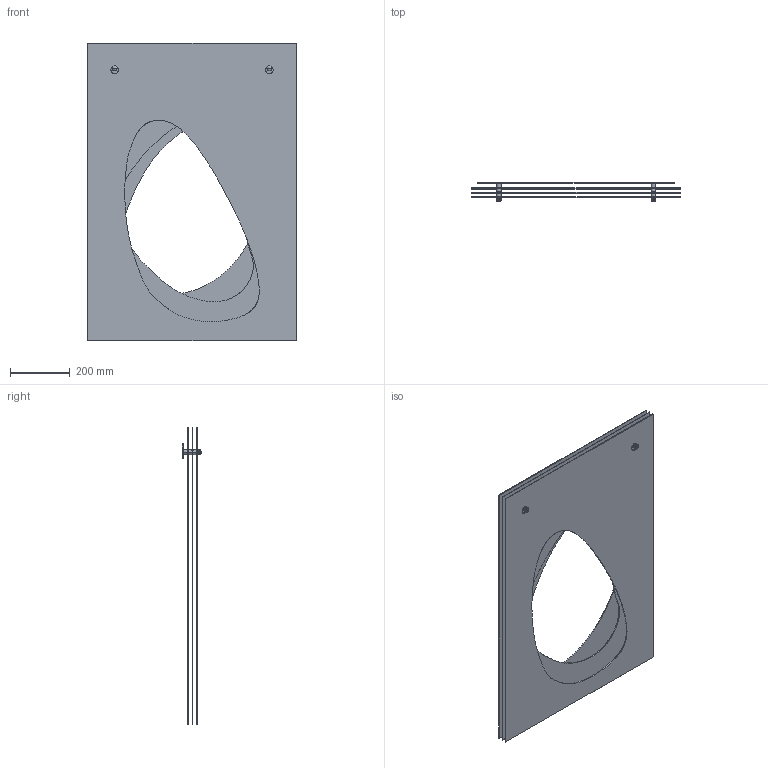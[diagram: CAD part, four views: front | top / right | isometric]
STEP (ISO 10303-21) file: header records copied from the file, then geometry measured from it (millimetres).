
FILE_DESCRIPTION(/* description */ (''),/* implementation_level */ '2;1');
FILE_NAME(/* name */ '292320~1',/* time_stamp */ '2023-09-01T15:16:32+02:00',/* author */ (''),/* organization */ (''),/* preprocessor_version */ 'ST-DEVELOPER v16.5',/* originating_system */ '',/* authorisation */ '');
FILE_SCHEMA (('AUTOMOTIVE_DESIGN'));
Length unit declared in the file: millimetre
Products named in the file (1): Document
Bounding box: 700.03 x 66.37 x 1000.04 mm (x, y, z)
Volume: 4419271.8 mm3; surface area: 3005605.8 mm2
Topology: 8 solids, 8 shells, 969 faces, 2809 edges, 1862 vertices
Faces by surface type: plane 873, bspline 96
Entity records: 29390 total; most frequent: CARTESIAN_POINT 10853, ORIENTED_EDGE 5610, EDGE_CURVE 2805, B_SPLINE_CURVE_WITH_KNOTS 2539, VERTEX_POINT 1862, EDGE_LOOP 1029, ADVANCED_FACE 969, FACE_OUTER_BOUND 969
